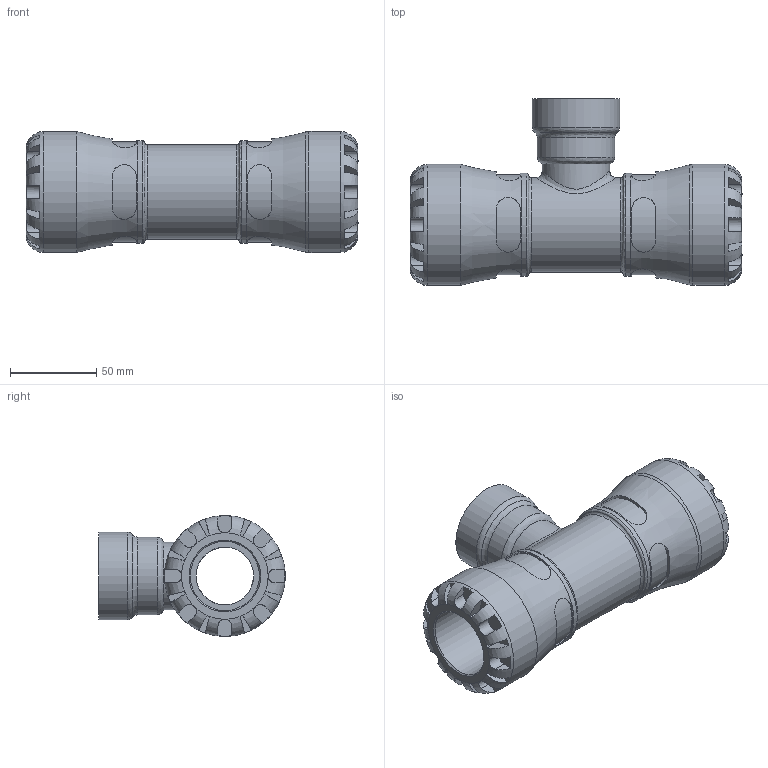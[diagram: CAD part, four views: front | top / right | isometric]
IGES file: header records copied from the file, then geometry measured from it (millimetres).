
Global section: file name: 101400040013_191400040013.ipt; native system: Autodesk Inventor 2015; preprocessor: unknown; author: KIM; date: 20191029.101457; units: millimetre
Bounding box: 192 x 108 x 70 mm (x, y, z)
Volume: 374532.1 mm3; surface area: 82912.2 mm2
Topology: 1 solids, 1 shells, 202 faces, 527 edges, 337 vertices
Faces by surface type: plane 118, revolution 51, cylinder 32, bspline 1
Full cylindrical faces by diameter (mm): 38.952 x1, 44.795 x1, 50.638 x1, 54.6 x1, 59.5 x2, 70 x2
